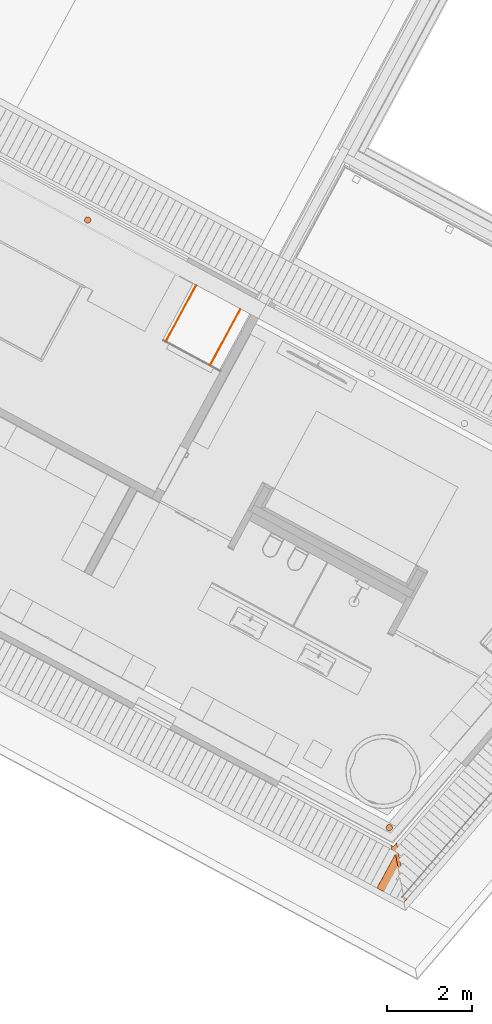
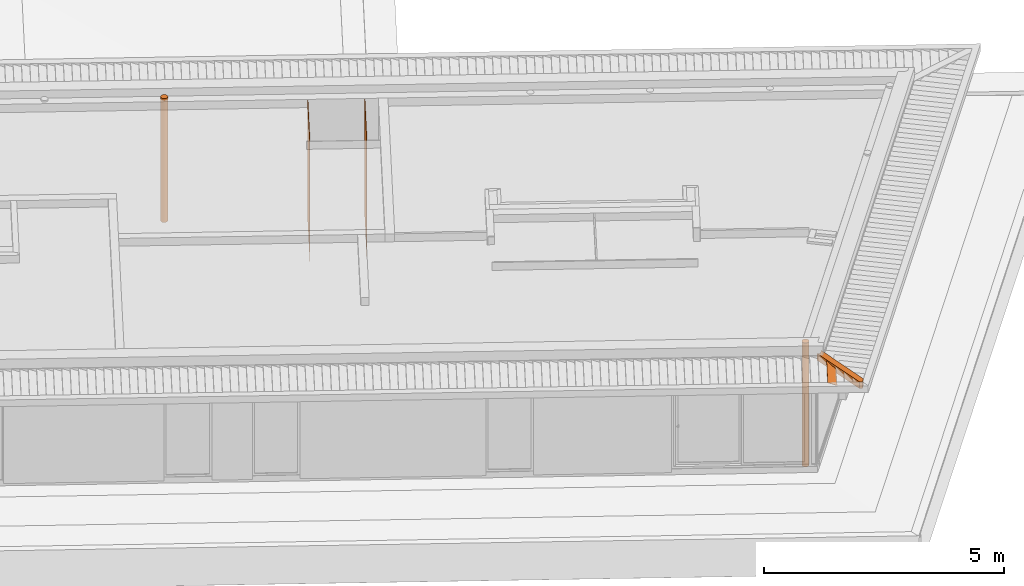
# One storey, part 45 of 48: 6 proxies.
"""IFC2X3 building model written with IfcOpenShell, lengths in metres."""

from ifc_helpers import new_model, entity, si_unit, converted_unit, derived_unit, money_unit, direction, frame, origin_with_axes, place, context, subcontext, project, spatial, faceted_brep, material, material_list, type_object, element, save


model = new_model("IFC2X3")

# Units and contexts
model_context = context("Model", 3, precision=1e-05, world=origin_with_axes(), true_north=direction((0.0, 1.0)))
body_context = subcontext(model_context, "Body", "Model", "MODEL_VIEW")
ifc_project = project(units=[si_unit("LENGTHUNIT", "METRE"), si_unit("AREAUNIT", "SQUARE_METRE"), si_unit("VOLUMEUNIT", "CUBIC_METRE"), converted_unit("PLANEANGLEUNIT", "DEGREE", entity("IfcPlaneAngleMeasure", 0.0174532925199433), si_unit("PLANEANGLEUNIT", "RADIAN"), dimensions=[0, 0, 0, 0, 0, 0, 0]), money_unit("EUR"), converted_unit("TIMEUNIT", "Year", entity("IfcTimeMeasure", 31556926.0), si_unit("TIMEUNIT", "SECOND"), dimensions=[0, 0, 1, 0, 0, 0, 0]), si_unit("MASSUNIT", "GRAM", prefix="KILO"), si_unit("THERMODYNAMICTEMPERATUREUNIT", "DEGREE_CELSIUS"), si_unit("LUMINOUSINTENSITYUNIT", "LUMEN"), si_unit("ENERGYUNIT", "JOULE", prefix="MEGA"), derived_unit("THERMALCONDUCTANCEUNIT", [(si_unit("POWERUNIT", "WATT"), 1), (si_unit("LENGTHUNIT", "METRE"), -1), (si_unit("THERMODYNAMICTEMPERATUREUNIT", "KELVIN"), -1)]), derived_unit("SPECIFICHEATCAPACITYUNIT", [(si_unit("ENERGYUNIT", "JOULE"), 1), (si_unit("MASSUNIT", "GRAM", prefix="KILO"), -1), (si_unit("THERMODYNAMICTEMPERATUREUNIT", "KELVIN"), -1)]), derived_unit("MASSDENSITYUNIT", [(si_unit("MASSUNIT", "GRAM", prefix="KILO"), 1), (si_unit("VOLUMEUNIT", "CUBIC_METRE"), -1)])], contexts=[model_context])

# Site, building, storey
site_placement = place(None, frame((-3.949935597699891, 1.740105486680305, 0.0), z_axis=(0.0, 0.0, 1.0), x_axis=(0.8799804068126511, -0.475009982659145, 0.0)))
site = spatial("IfcSite", under=ifc_project, at=site_placement, Name="Gelände", CompositionType="ELEMENT")
building_placement = place(site_placement, origin_with_axes())
building = spatial("IfcBuilding", under=site, at=building_placement, Name="Gebäude", CompositionType="ELEMENT")
storey_placement = place(building_placement, frame((0.0, 0.0, 4.55), z_axis=(0.0, 0.0, 1.0), x_axis=(1.0, 0.0, 0.0)))
storey = spatial("IfcBuildingStorey", under=building, at=storey_placement, Name="Staffelgeschoss", CompositionType="ELEMENT", Elevation=4.55)

# Proxies
ifc_material_1 = material(Name="Glas, Normalglas")
building_element_proxy_type_1 = type_object("IfcBuildingElementProxyType", Name="Glas, Normalglas 10", PredefinedType="NOTDEFINED")
proxy_1_placement = place(storey_placement, frame((16.89157746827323, 9.127800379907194, -0.1500000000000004), z_axis=(0.0, 0.0, 1.0), x_axis=(-9.806387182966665e-07, 0.9999999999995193, 0.0)))
element("IfcBuildingElementProxy", 1, at=proxy_1_placement, inside=storey, type_object=building_element_proxy_type_1, material=ifc_material_1, Name="I-Wand031", context=body_context, shape_type="Brep", body=[
    faceted_brep([(0.009998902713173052, 0.0, 3.113999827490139), (0.009998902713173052, 0.0, 0.149), (1.514999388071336, 0.0, 0.149), (1.51499935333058, 0.0, 3.114), (0.009998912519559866, 0.009999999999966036, 0.149), (0.009998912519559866, 0.01000000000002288, 3.113999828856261), (1.514999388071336, 0.009999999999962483, 0.149), (1.51499935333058, 0.00999999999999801, 3.114)], [[[0, 1, 2, 3]], [[4, 1, 0, 5]], [[4, 6, 2, 1]], [[3, 2, 6, 7]], [[7, 5, 0, 3]], [[7, 6, 4, 5]]]),
])
proxy_2_placement = place(storey_placement, frame((15.69249576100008, 10.64280067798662, -0.1500000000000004), z_axis=(0.0, 0.0, 1.0), x_axis=(-1.75109644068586e-07, -0.9999999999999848, 0.0)))
element("IfcBuildingElementProxy", 2, at=proxy_2_placement, inside=storey, type_object=building_element_proxy_type_1, material=ifc_material_1, Name="I-Wand032", context=body_context, shape_type="Brep", body=[
    faceted_brep([(7.480483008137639e-06, -9.286824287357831e-08, 0.05000000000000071), (6.488287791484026e-07, -8.055039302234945e-09, 3.114), (6.488287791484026e-07, 0.009999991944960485, 3.114), (7.480483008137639e-06, 0.00999990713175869, 0.05000000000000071), (1.505001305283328, -9.461933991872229e-08, 0.05000000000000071), (1.505001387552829, -8.206923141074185e-09, 3.114), (1.505001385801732, 0.009999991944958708, 3.114), (1.50500130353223, 0.009999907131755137, 0.05000000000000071)], [[[0, 1, 2, 3]], [[4, 5, 1, 0]], [[5, 6, 2, 1]], [[3, 2, 6, 7]], [[7, 4, 0, 3]], [[7, 6, 5, 4]]]),
])
ifc_material_2 = material(Name="ALLGEMEIN - BAUTEIL")
building_element_proxy_type_2 = type_object("IfcBuildingElementProxyType", Name="ALLGEMEIN - BAUTEIL", PredefinedType="NOTDEFINED")
proxy_3_placement = place(storey_placement, frame((26.23473814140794, 1.096892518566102, 2.903466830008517), z_axis=(0.3575193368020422, 0.0, 0.933905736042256), x_axis=(0.933905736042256, 0.0, -0.3575193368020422)))
element("IfcBuildingElementProxy", 3, at=proxy_3_placement, inside=storey, type_object=building_element_proxy_type_2, material=ifc_material_2, Name="Morph-037", context=body_context, shape_type="Brep", body=[
    faceted_brep([(0.0, -0.04819772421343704, 0.01000000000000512), (0.0, -0.9669000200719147, 0.01000000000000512), (0.2116597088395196, -0.2918466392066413, 0.00870712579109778), (0.003338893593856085, -0.04819772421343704, 0.001278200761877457), (0.2148913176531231, -0.9669323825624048, 0.01000000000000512), (0.2149986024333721, -0.2918466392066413, -1.467344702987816e-05), (0.0, -0.9669000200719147, 0.0), (0.2148913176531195, -0.9669323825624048, 0.0)], [[[0, 1, 2]], [[1, 0, 3]], [[1, 4, 2]], [[0, 2, 5]], [[3, 0, 5]], [[6, 1, 3]], [[1, 6, 7, 4]], [[4, 7, 5, 2]], [[6, 3, 5]], [[7, 6, 5]]]),
])
ifc_material_3 = material(Name="Metall, Stahl lackiert")
building_element_proxy_type_3 = type_object("IfcBuildingElementProxyType", Name="Metall, Stahl lackiert D152", PredefinedType="NOTDEFINED")
proxy_4_placement = place(storey_placement, frame((12.7047804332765, 10.78779359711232, -0.1499999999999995), z_axis=(0.0, 0.0, 1.0), x_axis=(1.0, 0.0, 0.0)))
element("IfcBuildingElementProxy", 4, at=proxy_4_placement, inside=storey, type_object=building_element_proxy_type_3, material=ifc_material_3, Name="Stütze-003", context=body_context, shape_type="Brep", body=[
    faceted_brep([(-0.07600000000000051, 0.0, 3.154000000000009), (-0.07600000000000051, 0.0, 0.0), (-0.07228029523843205, -0.02348529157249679, 0.0), (-0.07228029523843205, -0.02348529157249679, 3.154000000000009), (-0.07228029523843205, 0.02348529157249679, 3.154000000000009), (-0.07228029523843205, 0.02348529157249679, 0.0), (-0.06148529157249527, 0.04467167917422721, 0.0), (-0.04467167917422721, 0.06148529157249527, 0.0), (-0.02348529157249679, 0.07228029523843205, 0.0), (0.0, 0.07600000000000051, 0.0), (0.02348529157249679, 0.07228029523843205, 0.0), (0.04467167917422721, 0.06148529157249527, 0.0), (0.06148529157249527, 0.04467167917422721, 0.0), (0.07228029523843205, 0.02348529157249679, 0.0), (0.07600000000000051, 0.0, 0.0), (0.07228029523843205, -0.02348529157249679, 0.0), (0.06148529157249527, -0.04467167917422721, 0.0), (0.04467167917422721, -0.06148529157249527, 0.0), (0.02348529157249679, -0.07228029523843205, 0.0), (0.0, -0.07600000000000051, 0.0), (-0.02348529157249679, -0.07228029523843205, 0.0), (-0.04467167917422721, -0.06148529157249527, 0.0), (-0.06148529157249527, -0.04467167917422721, 0.0), (-0.06148529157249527, -0.04467167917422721, 3.154000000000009), (-0.04467167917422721, -0.06148529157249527, 3.154000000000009), (-0.02348529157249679, -0.07228029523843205, 3.154000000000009), (0.0, -0.07600000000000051, 3.154000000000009), (0.02348529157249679, -0.07228029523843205, 3.154000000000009), (0.04467167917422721, -0.06148529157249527, 3.154000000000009), (0.06148529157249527, -0.04467167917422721, 3.154000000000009), (0.07228029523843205, -0.02348529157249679, 3.154000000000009), (0.07600000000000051, 0.0, 3.154000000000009), (0.07228029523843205, 0.02348529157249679, 3.154000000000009), (0.06148529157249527, 0.04467167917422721, 3.154000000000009), (0.04467167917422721, 0.06148529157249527, 3.154000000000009), (0.02348529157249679, 0.07228029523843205, 3.154000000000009), (0.0, 0.07600000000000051, 3.154000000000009), (-0.02348529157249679, 0.07228029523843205, 3.154000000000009), (-0.04467167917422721, 0.06148529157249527, 3.154000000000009), (-0.06148529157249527, 0.04467167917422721, 3.154000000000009)], [[[0, 1, 2, 3]], [[4, 5, 1, 0]], [[2, 1, 5, 6, 7, 8, 9, 10, 11, 12, 13, 14, 15, 16, 17, 18, 19, 20, 21, 22]], [[3, 2, 22, 23]], [[4, 0, 3, 23, 24, 25, 26, 27, 28, 29, 30, 31, 32, 33, 34, 35, 36, 37, 38, 39]], [[39, 6, 5, 4]], [[38, 7, 6, 39]], [[37, 8, 7, 38]], [[36, 9, 8, 37]], [[35, 10, 9, 36]], [[34, 11, 10, 35]], [[33, 12, 11, 34]], [[32, 13, 12, 33]], [[31, 14, 13, 32]], [[30, 15, 14, 31]], [[29, 16, 15, 30]], [[28, 17, 16, 29]], [[27, 18, 17, 28]], [[26, 19, 18, 27]], [[25, 20, 19, 26]], [[24, 21, 20, 25]], [[23, 22, 21, 24]]]),
])
proxy_5_placement = place(storey_placement, frame((25.81513939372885, 1.524987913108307, -0.1499999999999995), z_axis=(0.0, 0.0, 1.0), x_axis=(1.0, 0.0, 0.0)))
element("IfcBuildingElementProxy", 5, at=proxy_5_placement, inside=storey, type_object=building_element_proxy_type_3, material=ifc_material_3, Name="Stütze-004", context=body_context, shape_type="Brep", body=[
    faceted_brep([(-0.07600000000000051, 0.0, 3.154000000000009), (-0.07600000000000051, 0.0, 0.0), (-0.07228029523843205, -0.0234852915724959, 0.0), (-0.07228029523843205, -0.0234852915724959, 3.154000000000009), (-0.07228029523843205, 0.02348529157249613, 3.154000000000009), (-0.07228029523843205, 0.02348529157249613, 0.0), (-0.06148529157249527, 0.04467167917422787, 0.0), (-0.04467167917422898, 0.06148529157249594, 0.0), (-0.02348529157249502, 0.0722802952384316, 0.0), (0.0, 0.07600000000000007, 0.0), (0.02348529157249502, 0.0722802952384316, 0.0), (0.04467167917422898, 0.06148529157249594, 0.0), (0.06148529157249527, 0.04467167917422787, 0.0), (0.07228029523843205, 0.0234852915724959, 0.0), (0.07600000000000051, 0.0, 0.0), (0.07228029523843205, -0.02348529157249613, 0.0), (0.06148529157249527, -0.04467167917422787, 0.0), (0.04467167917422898, -0.06148529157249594, 0.0), (0.02348529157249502, -0.0722802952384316, 0.0), (0.0, -0.07600000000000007, 0.0), (-0.02348529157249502, -0.0722802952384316, 0.0), (-0.04467167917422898, -0.06148529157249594, 0.0), (-0.06148529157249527, -0.04467167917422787, 0.0), (-0.06148529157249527, -0.04467167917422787, 3.154000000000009), (-0.04467167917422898, -0.06148529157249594, 3.154000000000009), (-0.02348529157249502, -0.0722802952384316, 3.154000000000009), (0.0, -0.07600000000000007, 3.154000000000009), (0.02348529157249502, -0.0722802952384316, 3.154000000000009), (0.04467167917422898, -0.06148529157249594, 3.154000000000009), (0.06148529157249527, -0.04467167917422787, 3.154000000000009), (0.07228029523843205, -0.02348529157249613, 3.154000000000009), (0.07600000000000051, 0.0, 3.154000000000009), (0.07228029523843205, 0.0234852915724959, 3.154000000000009), (0.06148529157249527, 0.04467167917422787, 3.154000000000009), (0.04467167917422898, 0.06148529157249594, 3.154000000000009), (0.02348529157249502, 0.0722802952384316, 3.154000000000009), (0.0, 0.07600000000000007, 3.154000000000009), (-0.02348529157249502, 0.0722802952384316, 3.154000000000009), (-0.04467167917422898, 0.06148529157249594, 3.154000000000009), (-0.06148529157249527, 0.04467167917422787, 3.154000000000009)], [[[0, 1, 2, 3]], [[4, 5, 1, 0]], [[2, 1, 5, 6, 7, 8, 9, 10, 11, 12, 13, 14, 15, 16, 17, 18, 19, 20, 21, 22]], [[3, 2, 22, 23]], [[4, 0, 3, 23, 24, 25, 26, 27, 28, 29, 30, 31, 32, 33, 34, 35, 36, 37, 38, 39]], [[39, 6, 5, 4]], [[38, 7, 6, 39]], [[37, 8, 7, 38]], [[36, 9, 8, 37]], [[35, 10, 9, 36]], [[34, 11, 10, 35]], [[33, 12, 11, 34]], [[32, 13, 12, 33]], [[31, 14, 13, 32]], [[30, 15, 14, 31]], [[29, 16, 15, 30]], [[28, 17, 16, 29]], [[27, 18, 17, 28]], [[26, 19, 18, 27]], [[25, 20, 19, 26]], [[24, 21, 20, 25]], [[23, 22, 21, 24]]]),
])
ifc_material_4 = material(Name="Beton, Leichtbeton")
ifc_material_5 = material(Name="Kleber")
ifc_material_6 = material(Name="Estrich")
ifc_material_7 = material(Name="Dämmung, hart EPS")
ifc_material_list = material_list([ifc_material_4, ifc_material_5, ifc_material_6, ifc_material_7])
building_element_proxy_type_4 = type_object("IfcBuildingElementProxyType", Name="BO | Dämmung 8+Folie+Estrich 7+Fliese 0,5 | 16cm 170", PredefinedType="NOTDEFINED")
proxy_6_placement = place(storey_placement, frame((26.04598771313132, 1.179999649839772, 2.75), z_axis=(0.0, 0.0, 1.0), x_axis=(1.0, 0.0, 0.0)))
element("IfcBuildingElementProxy", 6, at=proxy_6_placement, inside=storey, type_object=building_element_proxy_type_4, material=ifc_material_list, Name="Decke041", context=body_context, shape_type="Brep", body=[
    faceted_brep([(0.852193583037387, -1.049989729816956, 0.1600000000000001), (0.852193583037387, -1.049989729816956, 0.1699999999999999), (0.0, 0.0, 0.1699999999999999), (0.0, 0.0, 0.1600000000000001), (0.9175442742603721, -1.049989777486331, 0.1600000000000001), (0.9175442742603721, -1.049989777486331, 0.1699999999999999), (0.9407569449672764, -0.9437081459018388, 0.1699999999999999), (0.0924605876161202, 0.1146263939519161, 0.1699999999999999), (0.06742521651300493, 0.0, 0.1699999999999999), (0.06742521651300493, 0.0, 0.1600000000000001), (0.0924605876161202, 0.1146263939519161, 0.1600000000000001), (0.9407569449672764, -0.9437081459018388, 0.1600000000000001)], [[[0, 1, 2, 3]], [[4, 5, 1, 0]], [[2, 1, 5, 6, 7, 8]], [[3, 2, 8, 9]], [[3, 9, 10, 11, 4, 0]], [[11, 6, 5, 4]], [[10, 7, 6, 11]], [[9, 8, 7, 10]]]),
    faceted_brep([(0.852193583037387, -1.049989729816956, 0.1500000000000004), (0.852193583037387, -1.049989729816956, 0.1600000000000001), (0.0, 0.0, 0.1600000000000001), (0.0, 0.0, 0.1500000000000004), (0.9175442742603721, -1.049989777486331, 0.1500000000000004), (0.9175442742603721, -1.049989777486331, 0.1600000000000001), (0.9407569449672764, -0.9437081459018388, 0.1600000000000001), (0.0924605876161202, 0.1146263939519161, 0.1600000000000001), (0.06742521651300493, 0.0, 0.1600000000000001), (0.06742521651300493, 0.0, 0.1500000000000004), (0.0924605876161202, 0.1146263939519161, 0.1500000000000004), (0.9407569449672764, -0.9437081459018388, 0.1500000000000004)], [[[0, 1, 2, 3]], [[4, 5, 1, 0]], [[2, 1, 5, 6, 7, 8]], [[3, 2, 8, 9]], [[3, 9, 10, 11, 4, 0]], [[11, 6, 5, 4]], [[10, 7, 6, 11]], [[9, 8, 7, 10]]]),
    faceted_brep([(0.852193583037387, -1.049989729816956, 0.08000000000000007), (0.852193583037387, -1.049989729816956, 0.1500000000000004), (0.0, 0.0, 0.1500000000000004), (0.0, 0.0, 0.08000000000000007), (0.9175442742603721, -1.049989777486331, 0.08000000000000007), (0.9175442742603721, -1.049989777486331, 0.1500000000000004), (0.9407569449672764, -0.9437081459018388, 0.1500000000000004), (0.0924605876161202, 0.1146263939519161, 0.1500000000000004), (0.06742521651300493, 0.0, 0.1500000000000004), (0.06742521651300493, 0.0, 0.08000000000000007), (0.0924605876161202, 0.1146263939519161, 0.08000000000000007), (0.9407569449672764, -0.9437081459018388, 0.08000000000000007)], [[[0, 1, 2, 3]], [[4, 5, 1, 0]], [[2, 1, 5, 6, 7, 8]], [[3, 2, 8, 9]], [[3, 9, 10, 11, 4, 0]], [[11, 6, 5, 4]], [[10, 7, 6, 11]], [[9, 8, 7, 10]]]),
    faceted_brep([(0.0, 0.0, 0.0), (0.852193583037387, -1.049989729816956, 0.0), (0.852193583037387, -1.049989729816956, 0.08000000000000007), (0.0, 0.0, 0.08000000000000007), (0.06742521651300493, 0.0, 0.0), (0.0924605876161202, 0.1146263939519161, 0.0), (0.9407569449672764, -0.9437081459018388, 0.0), (0.9175442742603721, -1.049989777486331, 0.0), (0.9175442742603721, -1.049989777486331, 0.08000000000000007), (0.9407569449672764, -0.9437081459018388, 0.08000000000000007), (0.0924605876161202, 0.1146263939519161, 0.08000000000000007), (0.06742521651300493, 0.0, 0.08000000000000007)], [[[0, 1, 2, 3]], [[0, 4, 5, 6, 7, 1]], [[1, 7, 8, 2]], [[3, 2, 8, 9, 10, 11]], [[4, 0, 3, 11]], [[5, 4, 11, 10]], [[6, 5, 10, 9]], [[7, 6, 9, 8]]]),
])

save(model, "model.ifc")
